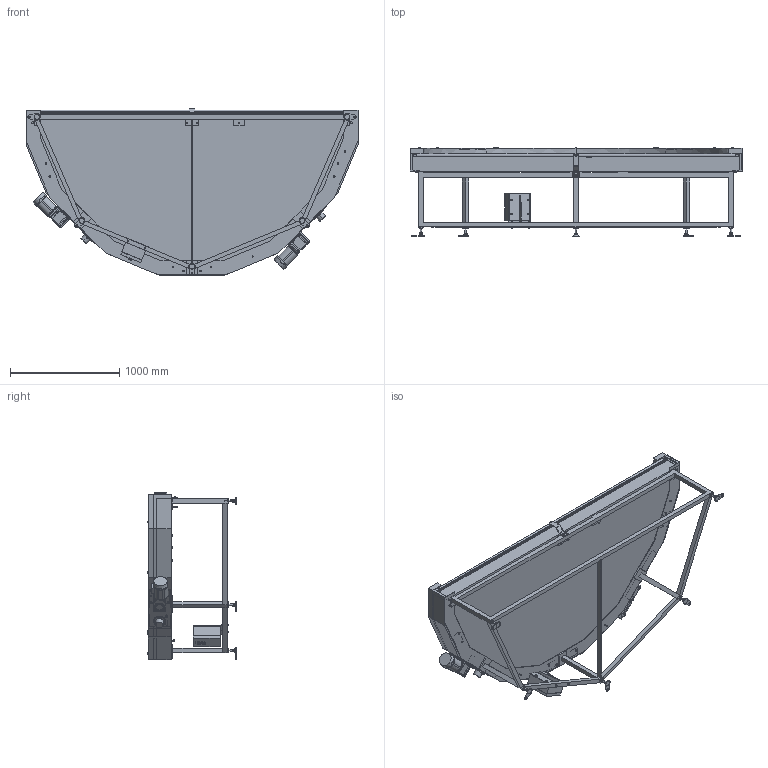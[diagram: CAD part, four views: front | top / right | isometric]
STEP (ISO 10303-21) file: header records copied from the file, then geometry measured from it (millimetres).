
FILE_DESCRIPTION (( 'STEP AP214' ), '1' );
FILE_NAME ('MMBC3-HS-340-1400-180°-L-K-160.STEP', '2024-10-07T03:03:49', ( '' ), ( '' ), 'SwSTEP 2.0', 'SolidWorks 2017', '' );
FILE_SCHEMA (( 'AUTOMOTIVE_DESIGN' ));
Length unit declared in the file: millimetre
Products named in the file (1): MMBC3-HS-340-1400-180°-L-K-160
Bounding box: 3040 x 810.8 x 1534 mm (x, y, z)
Volume: 629508781 mm3; surface area: 37646094.4 mm2
Topology: 60 solids, 60 shells, 2244 faces, 5434 edges, 3541 vertices
Faces by surface type: plane 1498, cylinder 600, cone 66, torus 48, bspline 32
Entity records: 71509 total; most frequent: CARTESIAN_POINT 17020, DIRECTION 11169, ORIENTED_EDGE 10828, EDGE_CURVE 5414, LINE 3835, VECTOR 3835, AXIS2_PLACEMENT_3D 3667, VERTEX_POINT 3541
